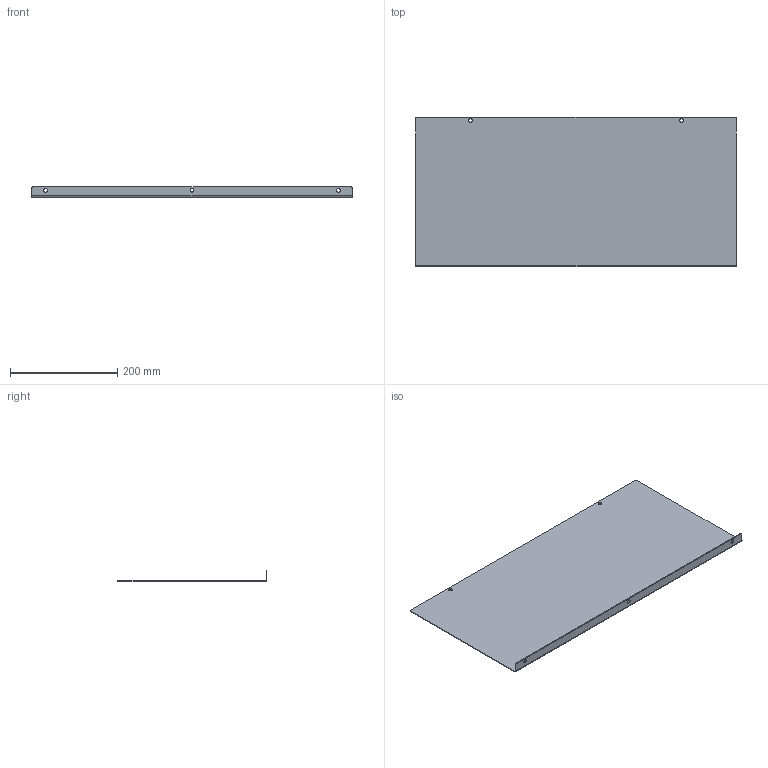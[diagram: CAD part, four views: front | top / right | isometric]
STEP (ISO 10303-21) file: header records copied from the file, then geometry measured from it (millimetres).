
FILE_DESCRIPTION(/* description */ ('1100BA 12" x 24" x 0.75" Assembly'),/* implementation_level */ '2;1');
FILE_NAME(/* name */ 'C:\Vault_Workspace\Inventor_Dwg\BoxCad\Result\1100BA12024\e-mail\3D\1100BA12024.stp',/* time_stamp */ '2023-08-10T10:09:35-04:00',/* author */ ('BoxCad'),/* organization */ (''),/* preprocessor_version */ 'ST-DEVELOPER v18.1',/* originating_system */ 'Autodesk Inventor 2020',/* authorisation */ '');
FILE_SCHEMA (('AUTOMOTIVE_DESIGN { 1 0 10303 214 3 1 1 }'));
Length unit declared in the file: inch
Products named in the file (3): 1100BA12024; 1100BA12024-P; STK-P-02400S
Assembly tree (2 placements, depth 2):
  1100BA12024
    1100BA12024-P
    STK-P-02400S
Bounding box: 596.9 x 279.4 x 19.05 mm (x, y, z)
Volume: 237960.9 mm3; surface area: 356082.4 mm2
Topology: 1 solids, 1 shells, 23 faces, 55 edges, 34 vertices
Faces by surface type: plane 12, cylinder 11
Full cylindrical faces by diameter (mm): 7.137 x5
Entity records: 802 total; most frequent: DIRECTION 133, CARTESIAN_POINT 117, ORIENTED_EDGE 110, EDGE_CURVE 55, AXIS2_PLACEMENT_3D 50, VERTEX_POINT 34, EDGE_LOOP 33, LINE 33
